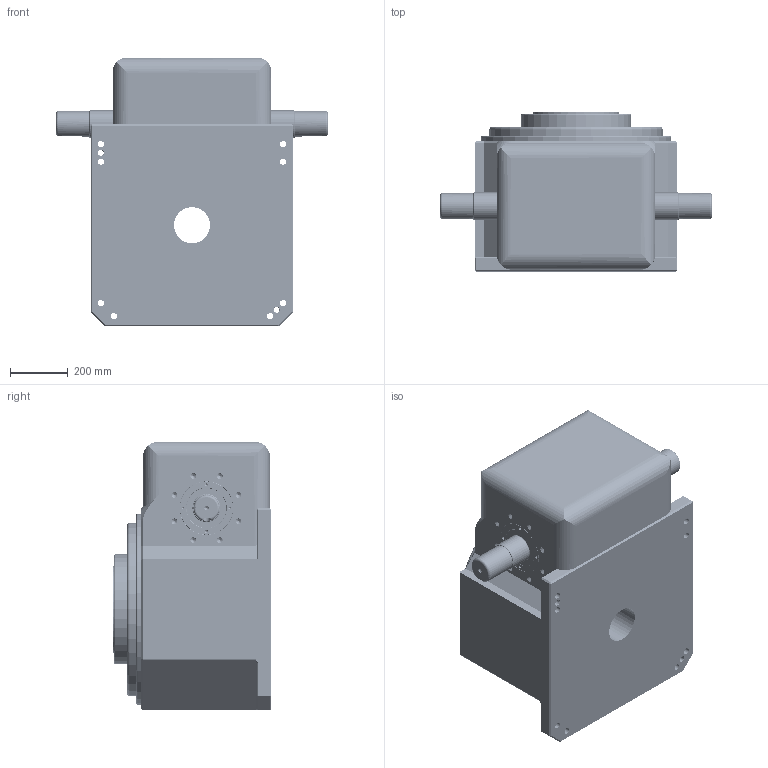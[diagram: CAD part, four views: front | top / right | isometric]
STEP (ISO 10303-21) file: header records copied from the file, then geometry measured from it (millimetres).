
FILE_DESCRIPTION (( 'STEP AP214' ), '1' );
FILE_NAME ('- 350DT 法兰面以及壳体加定位销BZ.STEP', '2017-10-31T06:45:07', ( '' ), ( '' ), 'SwSTEP 2.0', 'SolidWorks 2017', '' );
FILE_SCHEMA (( 'AUTOMOTIVE_DESIGN' ));
Length unit declared in the file: millimetre
Products named in the file (1): - 350DT 法兰面以及壳体加定位销BZ
Bounding box: 940 x 550 x 930 mm (x, y, z)
Volume: 268054138.2 mm3; surface area: 3130763.2 mm2
Topology: 1 solids, 1 shells, 2338 faces, 6584 edges, 4226 vertices
Faces by surface type: cylinder 1732, cone 276, plane 204, bspline 114, torus 12
Entity records: 198705 total; most frequent: CARTESIAN_POINT 149140, ORIENTED_EDGE 12960, DIRECTION 7786, EDGE_CURVE 6480, VERTEX_POINT 4226, AXIS2_PLACEMENT_3D 2731, EDGE_LOOP 2442, FACE_OUTER_BOUND 2338
